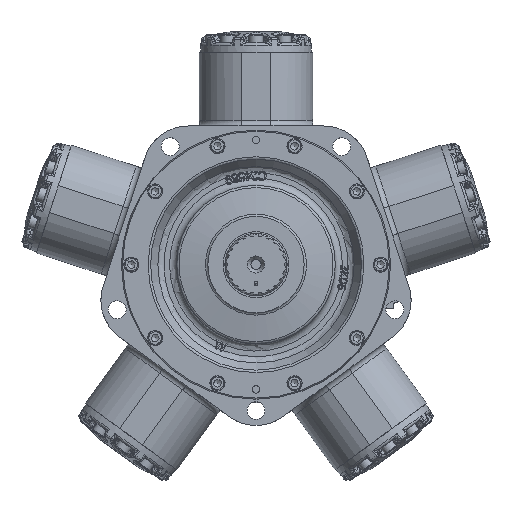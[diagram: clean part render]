
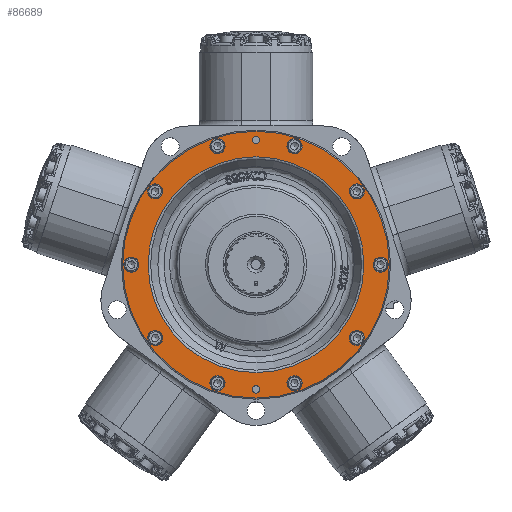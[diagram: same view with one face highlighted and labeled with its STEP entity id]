
A CAD part, top view. The second image highlights one B-rep face of the part: STEP entity #86689.
In plain terms, the highlighted planar face has unit normal (0, 0, 1).
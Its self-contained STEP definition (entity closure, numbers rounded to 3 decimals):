
#11468=FACE_BOUND('',#23279,.T.);
#11469=FACE_BOUND('',#23280,.T.);
#11470=FACE_BOUND('',#23281,.T.);
#11471=FACE_BOUND('',#23282,.T.);
#11472=FACE_BOUND('',#23283,.T.);
#11473=FACE_BOUND('',#23284,.T.);
#11474=FACE_BOUND('',#23285,.T.);
#11475=FACE_BOUND('',#23286,.T.);
#11476=FACE_BOUND('',#23287,.T.);
#11477=FACE_BOUND('',#23288,.T.);
#11478=FACE_BOUND('',#23289,.T.);
#11479=FACE_BOUND('',#23290,.T.);
#11480=FACE_BOUND('',#23291,.T.);
#12827=PLANE('',#93854);
#17871=FACE_OUTER_BOUND('',#23278,.T.);
#23278=EDGE_LOOP('',(#73723));
#23279=EDGE_LOOP('',(#73724));
#23280=EDGE_LOOP('',(#73725));
#23281=EDGE_LOOP('',(#73726));
#23282=EDGE_LOOP('',(#73727));
#23283=EDGE_LOOP('',(#73728));
#23284=EDGE_LOOP('',(#73729));
#23285=EDGE_LOOP('',(#73730));
#23286=EDGE_LOOP('',(#73731));
#23287=EDGE_LOOP('',(#73732));
#23288=EDGE_LOOP('',(#73733));
#23289=EDGE_LOOP('',(#73734));
#23290=EDGE_LOOP('',(#73735));
#23291=EDGE_LOOP('',(#73736));
#26746=CIRCLE('',#93665,120.896);
#26815=CIRCLE('',#93855,149.491);
#26816=CIRCLE('',#93856,4.188);
#26817=CIRCLE('',#93857,4.188);
#26818=CIRCLE('',#93858,8.5);
#26819=CIRCLE('',#93859,8.5);
#26820=CIRCLE('',#93860,8.5);
#26821=CIRCLE('',#93861,8.5);
#26822=CIRCLE('',#93862,8.5);
#26823=CIRCLE('',#93863,8.5);
#26824=CIRCLE('',#93864,8.5);
#26825=CIRCLE('',#93865,8.5);
#26826=CIRCLE('',#93866,8.5);
#26827=CIRCLE('',#93867,8.5);
#37212=VERTEX_POINT('',#226740);
#37664=VERTEX_POINT('',#230182);
#37665=VERTEX_POINT('',#230184);
#37666=VERTEX_POINT('',#230186);
#37667=VERTEX_POINT('',#230188);
#37668=VERTEX_POINT('',#230190);
#37669=VERTEX_POINT('',#230192);
#37670=VERTEX_POINT('',#230194);
#37671=VERTEX_POINT('',#230196);
#37672=VERTEX_POINT('',#230198);
#37673=VERTEX_POINT('',#230200);
#37674=VERTEX_POINT('',#230202);
#37675=VERTEX_POINT('',#230204);
#37676=VERTEX_POINT('',#230206);
#49071=EDGE_CURVE('',#37212,#37212,#26746,.T.);
#49748=EDGE_CURVE('',#37664,#37664,#26815,.T.);
#49749=EDGE_CURVE('',#37665,#37665,#26816,.T.);
#49750=EDGE_CURVE('',#37666,#37666,#26817,.T.);
#49751=EDGE_CURVE('',#37667,#37667,#26818,.T.);
#49752=EDGE_CURVE('',#37668,#37668,#26819,.T.);
#49753=EDGE_CURVE('',#37669,#37669,#26820,.T.);
#49754=EDGE_CURVE('',#37670,#37670,#26821,.T.);
#49755=EDGE_CURVE('',#37671,#37671,#26822,.T.);
#49756=EDGE_CURVE('',#37672,#37672,#26823,.T.);
#49757=EDGE_CURVE('',#37673,#37673,#26824,.T.);
#49758=EDGE_CURVE('',#37674,#37674,#26825,.T.);
#49759=EDGE_CURVE('',#37675,#37675,#26826,.T.);
#49760=EDGE_CURVE('',#37676,#37676,#26827,.T.);
#73723=ORIENTED_EDGE('',*,*,#49748,.F.);
#73724=ORIENTED_EDGE('',*,*,#49749,.T.);
#73725=ORIENTED_EDGE('',*,*,#49750,.T.);
#73726=ORIENTED_EDGE('',*,*,#49751,.T.);
#73727=ORIENTED_EDGE('',*,*,#49752,.T.);
#73728=ORIENTED_EDGE('',*,*,#49753,.T.);
#73729=ORIENTED_EDGE('',*,*,#49754,.T.);
#73730=ORIENTED_EDGE('',*,*,#49755,.T.);
#73731=ORIENTED_EDGE('',*,*,#49756,.T.);
#73732=ORIENTED_EDGE('',*,*,#49757,.T.);
#73733=ORIENTED_EDGE('',*,*,#49758,.T.);
#73734=ORIENTED_EDGE('',*,*,#49759,.T.);
#73735=ORIENTED_EDGE('',*,*,#49760,.T.);
#73736=ORIENTED_EDGE('',*,*,#49071,.T.);
#86689=ADVANCED_FACE('',(#17871,#11468,#11469,#11470,#11471,#11472,#11473,
#11474,#11475,#11476,#11477,#11478,#11479,#11480),#12827,.T.);
#93665=AXIS2_PLACEMENT_3D('',#226741,#111378,#111379);
#93854=AXIS2_PLACEMENT_3D('',#230181,#112041,#112042);
#93855=AXIS2_PLACEMENT_3D('',#230183,#112043,#112044);
#93856=AXIS2_PLACEMENT_3D('',#230185,#112045,#112046);
#93857=AXIS2_PLACEMENT_3D('',#230187,#112047,#112048);
#93858=AXIS2_PLACEMENT_3D('',#230189,#112049,#112050);
#93859=AXIS2_PLACEMENT_3D('',#230191,#112051,#112052);
#93860=AXIS2_PLACEMENT_3D('',#230193,#112053,#112054);
#93861=AXIS2_PLACEMENT_3D('',#230195,#112055,#112056);
#93862=AXIS2_PLACEMENT_3D('',#230197,#112057,#112058);
#93863=AXIS2_PLACEMENT_3D('',#230199,#112059,#112060);
#93864=AXIS2_PLACEMENT_3D('',#230201,#112061,#112062);
#93865=AXIS2_PLACEMENT_3D('',#230203,#112063,#112064);
#93866=AXIS2_PLACEMENT_3D('',#230205,#112065,#112066);
#93867=AXIS2_PLACEMENT_3D('',#230207,#112067,#112068);
#111378=DIRECTION('center_axis',(0.,0.,
-1.));
#111379=DIRECTION('ref_axis',(0.,-1.,0.));
#112041=DIRECTION('center_axis',(0.,0.,
1.));
#112042=DIRECTION('ref_axis',(-1.,0.,0.));
#112043=DIRECTION('center_axis',(0.,0.,
-1.));
#112044=DIRECTION('ref_axis',(0.,1.,0.));
#112045=DIRECTION('center_axis',(0.,0.,
-1.));
#112046=DIRECTION('ref_axis',(-1.,0.,0.));
#112047=DIRECTION('center_axis',(0.,0.,
-1.));
#112048=DIRECTION('ref_axis',(-1.,0.,0.));
#112049=DIRECTION('center_axis',(0.,0.,
-1.));
#112050=DIRECTION('ref_axis',(0.809,-0.588,0.));
#112051=DIRECTION('center_axis',(0.,0.,
-1.));
#112052=DIRECTION('ref_axis',(0.309,-0.951,0.));
#112053=DIRECTION('center_axis',(0.,0.,
-1.));
#112054=DIRECTION('ref_axis',(-0.309,-0.951,0.));
#112055=DIRECTION('center_axis',(0.,0.,
-1.));
#112056=DIRECTION('ref_axis',(-0.809,-0.588,0.));
#112057=DIRECTION('center_axis',(0.,0.,
-1.));
#112058=DIRECTION('ref_axis',(-1.,0.,0.));
#112059=DIRECTION('center_axis',(0.,0.,
-1.));
#112060=DIRECTION('ref_axis',(-0.809,0.588,0.));
#112061=DIRECTION('center_axis',(0.,0.,
-1.));
#112062=DIRECTION('ref_axis',(-0.309,0.951,0.));
#112063=DIRECTION('center_axis',(0.,0.,
-1.));
#112064=DIRECTION('ref_axis',(0.309,0.951,0.));
#112065=DIRECTION('center_axis',(0.,0.,
-1.));
#112066=DIRECTION('ref_axis',(0.809,0.588,0.));
#112067=DIRECTION('center_axis',(0.,0.,
-1.));
#112068=DIRECTION('ref_axis',(1.,0.,0.));
#226740=CARTESIAN_POINT('',(-120.896,0.,85.078));
#226741=CARTESIAN_POINT('Origin',(0.,0.,
85.078));
#230181=CARTESIAN_POINT('Origin',(0.,-135.854,
85.078));
#230182=CARTESIAN_POINT('',(0.,-149.491,85.078));
#230183=CARTESIAN_POINT('Origin',(0.,0.,
85.078));
#230184=CARTESIAN_POINT('',(4.188,-139.7,85.078));
#230185=CARTESIAN_POINT('Origin',(0.,-139.7,85.078));
#230186=CARTESIAN_POINT('',(4.188,139.7,85.078));
#230187=CARTESIAN_POINT('Origin',(0.,139.7,85.078));
#230188=CARTESIAN_POINT('',(-119.896,87.11,85.078));
#230189=CARTESIAN_POINT('Origin',(-113.02,82.114,85.078));
#230190=CARTESIAN_POINT('',(-45.796,140.947,85.078));
#230191=CARTESIAN_POINT('Origin',(-43.17,132.863,85.078));
#230192=CARTESIAN_POINT('',(45.796,140.947,85.078));
#230193=CARTESIAN_POINT('Origin',(43.17,132.863,85.078));
#230194=CARTESIAN_POINT('',(119.896,87.11,85.078));
#230195=CARTESIAN_POINT('Origin',(113.02,82.114,85.078));
#230196=CARTESIAN_POINT('',(148.2,0.,85.078));
#230197=CARTESIAN_POINT('Origin',(139.7,0.,85.078));
#230198=CARTESIAN_POINT('',(119.896,-87.11,85.078));
#230199=CARTESIAN_POINT('Origin',(113.02,-82.114,85.078));
#230200=CARTESIAN_POINT('',(45.796,-140.947,85.078));
#230201=CARTESIAN_POINT('Origin',(43.17,-132.863,85.078));
#230202=CARTESIAN_POINT('',(-45.796,-140.947,85.078));
#230203=CARTESIAN_POINT('Origin',(-43.17,-132.863,85.078));
#230204=CARTESIAN_POINT('',(-119.896,-87.11,85.078));
#230205=CARTESIAN_POINT('Origin',(-113.02,-82.114,85.078));
#230206=CARTESIAN_POINT('',(-148.2,0.,85.078));
#230207=CARTESIAN_POINT('Origin',(-139.7,0.,85.078));
